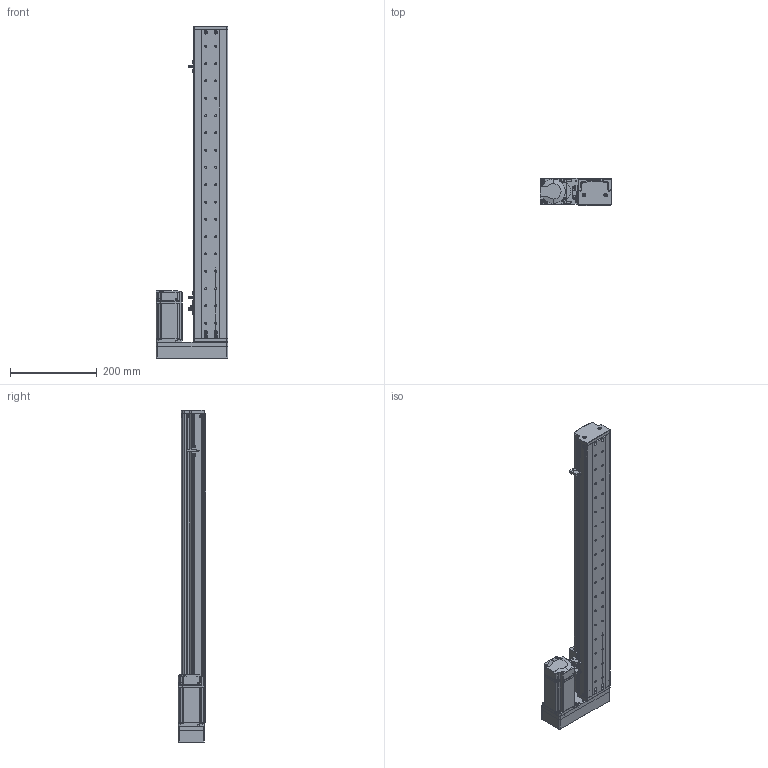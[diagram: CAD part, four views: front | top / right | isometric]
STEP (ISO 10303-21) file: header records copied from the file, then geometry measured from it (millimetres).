
FILE_DESCRIPTION (( 'STEP AP214' ), '1' );
FILE_NAME ('KSD75S-S560-MR-CM.STEP', '2019-10-18T07:22:20', ( '微软用户' ), ( '微软中国' ), 'SwSTEP 2.0', 'SolidWorks 2014', '' );
FILE_SCHEMA (( 'AUTOMOTIVE_DESIGN' ));
Length unit declared in the file: millimetre
Products named in the file (13): ヶ傷啣; 75裔啣-560俴最; 75遵耀郪耜啣-560俴最; 75遵賑雄釱; MGW15H賑寢560俴最 ; 560俴最; KSD75S-S560-MR-CM; MHMD042G1CA_2_03; 75宽模组保护罩左右折; 75宽马达安装板连板左右折丝杆; 覜茼え100遵圉猾敕; U倰嫖萇EEㄜSX672; 綴傷啣 
Assembly tree (15 placements, depth 3):
  KSD75S-S560-MR-CM
    MGW15H賑寢560俴最 
      560俴最
    75遵賑雄釱
    75遵耀郪耜啣-560俴最  x2
    75裔啣-560俴最
    ヶ傷啣
    綴傷啣 
    U倰嫖萇EEㄜSX672  x3
    覜茼え100遵圉猾敕
    75宽马达安装板连板左右折丝杆
    75宽模组保护罩左右折
    MHMD042G1CA_2_03
Bounding box: 165 x 63 x 767.5 mm (x, y, z)
Volume: 984198.6 mm3; surface area: 619941.4 mm2
Topology: 13 solids, 14 shells, 1503 faces, 4234 edges, 2765 vertices
Faces by surface type: cylinder 723, plane 633, cone 129, bspline 18
Entity records: 48150 total; most frequent: CARTESIAN_POINT 9118, DIRECTION 7244, ORIENTED_EDGE 6748, EDGE_CURVE 3445, AXIS2_PLACEMENT_3D 2670, VERTEX_POINT 2283, LINE 1904, VECTOR 1904
